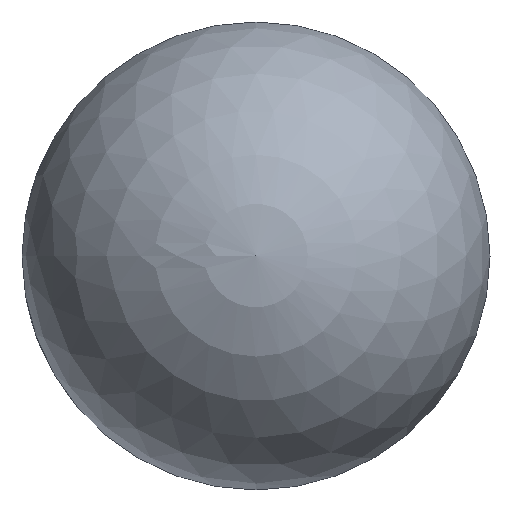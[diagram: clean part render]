
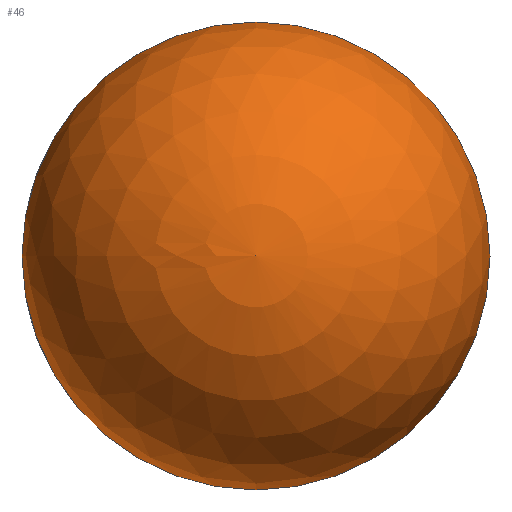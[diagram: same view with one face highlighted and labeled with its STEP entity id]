
A CAD part, top view. The second image highlights one B-rep face of the part: STEP entity #46.
In plain terms, the highlighted spherical face has radius 16 mm.
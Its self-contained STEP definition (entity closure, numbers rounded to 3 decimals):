
#20=CARTESIAN_POINT('',(0.,0.,37.));
#21=DIRECTION('',(-1.,0.,0.));
#22=DIRECTION('',(0.,0.,1.));
#23=AXIS2_PLACEMENT_3D('',#20,#22,#21);
#24=SPHERICAL_SURFACE('',#23,16.);
#25=CARTESIAN_POINT('',(0.,0.,53.));
#26=VERTEX_POINT('',#25);
#27=CARTESIAN_POINT('',(-15.999,0.,37.152));
#28=VERTEX_POINT('',#27);
#29=CARTESIAN_POINT('',(0.,0.,37.));
#30=DIRECTION('',(0.,0.,1.));
#31=DIRECTION('',(0.,-1.,-0.));
#32=AXIS2_PLACEMENT_3D('',#29,#31,#30);
#33=CIRCLE('',#32,16.);
#34=EDGE_CURVE('',#26,#28,#33,.T.);
#35=ORIENTED_EDGE('E1',*,*,#34,.T.);
#36=CARTESIAN_POINT('',(0.,0.,37.152));
#37=DIRECTION('',(-1.,0.,0.));
#38=DIRECTION('',(0.,0.,1.));
#39=AXIS2_PLACEMENT_3D('',#36,#38,#37);
#40=CIRCLE('',#39,15.999);
#41=EDGE_CURVE('',#28,#28,#40,.T.);
#42=ORIENTED_EDGE('E5',*,*,#41,.T.);
#43=ORIENTED_EDGE('E5',*,*,#34,.F.);
#44=EDGE_LOOP('',(#35,#42,#43));
#45=FACE_OUTER_BOUND('',#44,.T.);
#46=ADVANCED_FACE('F1',(#45),#24,.T.);
